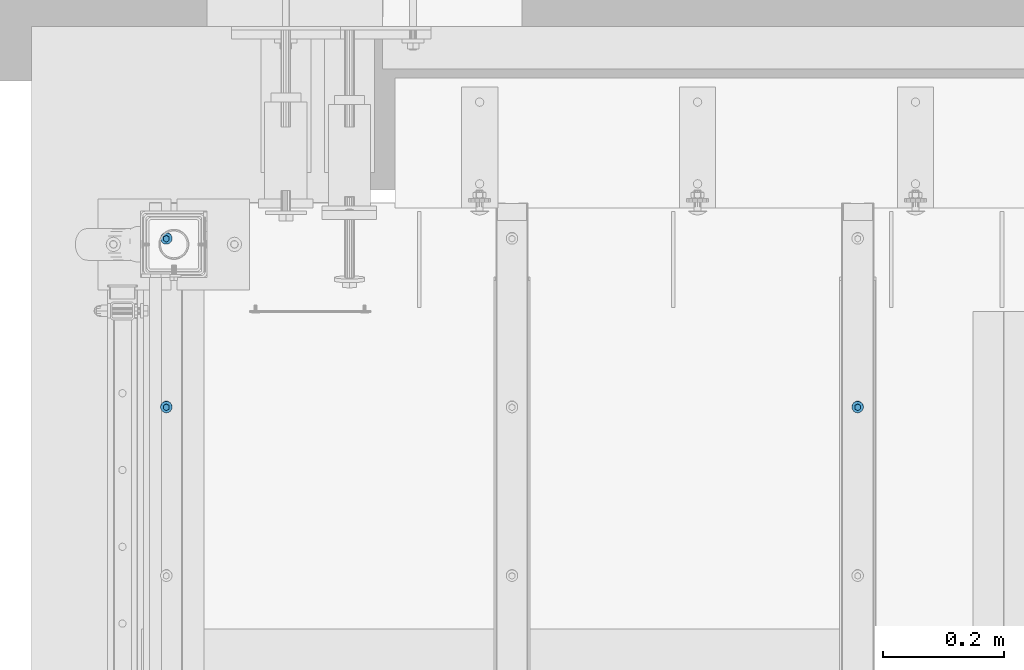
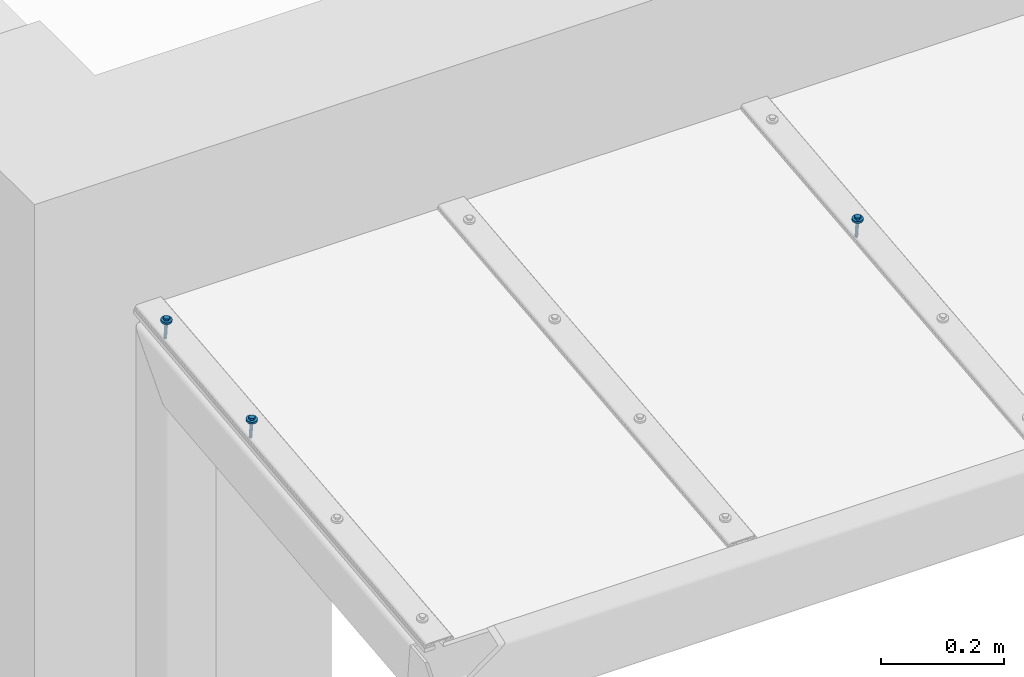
# One storey, part 58 of 116: 3 mechanical fasteners.
"""IFC2X3 building model written with IfcOpenShell, lengths in millimetres."""

from ifc_helpers import new_model, entity, si_unit, converted_unit, origin_with_axes, place, context, project, spatial, faceted_brep, element, save


model = new_model("IFC2X3")

# Units and contexts
model_context = context("Model", 3, precision=1e-09, world=origin_with_axes())
ifc_project = project(units=[si_unit("LENGTHUNIT", "METRE", prefix="MILLI"), si_unit("AREAUNIT", "SQUARE_METRE"), si_unit("VOLUMEUNIT", "CUBIC_METRE"), converted_unit("PLANEANGLEUNIT", "DEGREE", entity("IfcPlaneAngleMeasure", 0.01745329), si_unit("PLANEANGLEUNIT", "RADIAN"), dimensions=[0, 0, 0, 0, 0, 0, 0])], contexts=[model_context])

# Site, building, storey
site_placement = place(None, origin_with_axes())
site = spatial("IfcSite", under=ifc_project, at=site_placement, Name="Site", CompositionType="ELEMENT")
building_placement = place(site_placement, origin_with_axes())
building = spatial("IfcBuilding", under=site, at=building_placement, Name="Struktur 1", CompositionType="ELEMENT")
storey_placement = place(building_placement, origin_with_axes())
storey = spatial("IfcBuildingStorey", under=building, at=storey_placement, Name="Default Storey", CompositionType="ELEMENT", Elevation=0.0)

# Mechanical fasteners
mechanical_fastener_1_placement = place(None, origin_with_axes())
element("IfcMechanicalFastener", 1, at=mechanical_fastener_1_placement, inside=storey, ObjectType="-", NominalDiameter=6.0, NominalLength=40.0, context=model_context, shape_type="Brep", body=[
    faceted_brep([(56457.049134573, 11693.55204333, 2585.640381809), (56457.049134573, 11693.970157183, 2581.662294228), (56457.231674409, 11692.126952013, 2581.468565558), (56457.231674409, 11691.70883816, 2585.446653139), (56457.772279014, 11690.354580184, 2581.282281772), (56457.772279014, 11689.936466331, 2585.260369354), (56458.650173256, 11688.721152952, 2581.110601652), (56458.650173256, 11688.303039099, 2585.088689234), (56459.831620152, 11687.289442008, 2580.960122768), (56459.831620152, 11686.871328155, 2584.93821035), (56461.27121736, 11686.114467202, 2580.83662794), (56461.27121736, 11685.696353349, 2584.814715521), (56462.913641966, 11685.241382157, 2580.744863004), (56462.913641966, 11684.823268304, 2584.722950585), (56464.695776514, 11684.703739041, 2580.688354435), (56464.695776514, 11684.285625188, 2584.666442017), (56466.549134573, 11684.522199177, 2580.669273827), (56466.549134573, 11684.104085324, 2584.647361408), (56468.402492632, 11684.703739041, 2580.688354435), (56468.402492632, 11684.285625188, 2584.666442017), (56470.184627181, 11685.241382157, 2580.744863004), (56470.184627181, 11684.823268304, 2584.722950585), (56471.827051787, 11686.114467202, 2580.83662794), (56471.827051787, 11685.696353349, 2584.814715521), (56473.266648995, 11687.289442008, 2580.960122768), (56473.266648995, 11686.871328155, 2584.93821035), (56474.44809589, 11688.721152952, 2581.110601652), (56474.44809589, 11688.303039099, 2585.088689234), (56475.325990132, 11690.354580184, 2581.282281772), (56475.325990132, 11689.936466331, 2585.260369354), (56475.866594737, 11692.126952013, 2581.468565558), (56475.866594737, 11691.70883816, 2585.446653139), (56476.049134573, 11693.970157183, 2581.662294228), (56476.049134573, 11693.55204333, 2585.640381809), (56475.866594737, 11695.813362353, 2581.856022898), (56475.866594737, 11695.395248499, 2585.834110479), (56475.325990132, 11697.585734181, 2582.042306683), (56475.325990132, 11697.167620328, 2586.020394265), (56474.44809589, 11699.219161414, 2582.213986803), (56474.44809589, 11698.801047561, 2586.192074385), (56473.266648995, 11700.650872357, 2582.364465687), (56473.266648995, 11700.232758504, 2586.342553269), (56471.827051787, 11701.825847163, 2582.487960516), (56471.827051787, 11701.40773331, 2586.466048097), (56470.184627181, 11702.698932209, 2582.579725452), (56470.184627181, 11702.280818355, 2586.557813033), (56468.402492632, 11703.236575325, 2582.63623402), (56468.402492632, 11702.818461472, 2586.614321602), (56466.549134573, 11703.418115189, 2582.655314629), (56466.549134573, 11703.000001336, 2586.63340221), (56464.695776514, 11703.236575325, 2582.63623402), (56464.695776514, 11702.818461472, 2586.614321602), (56462.913641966, 11702.698932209, 2582.579725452), (56462.913641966, 11702.280818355, 2586.557813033), (56461.27121736, 11701.825847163, 2582.487960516), (56461.27121736, 11701.40773331, 2586.466048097), (56459.831620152, 11700.650872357, 2582.364465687), (56459.831620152, 11700.232758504, 2586.342553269), (56458.650173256, 11699.219161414, 2582.213986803), (56458.650173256, 11698.801047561, 2586.192074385), (56457.772279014, 11697.585734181, 2582.042306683), (56457.772279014, 11697.167620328, 2586.020394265), (56457.231674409, 11695.813362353, 2581.856022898), (56457.231674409, 11695.395248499, 2585.834110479)], [[[0, 1, 2, 3]], [[3, 2, 4, 5]], [[5, 4, 6, 7]], [[7, 6, 8, 9]], [[9, 8, 10, 11]], [[11, 10, 12, 13]], [[13, 12, 14, 15]], [[15, 14, 16, 17]], [[17, 16, 18, 19]], [[19, 18, 20, 21]], [[21, 20, 22, 23]], [[23, 22, 24, 25]], [[25, 24, 26, 27]], [[27, 26, 28, 29]], [[29, 28, 30, 31]], [[31, 30, 32, 33]], [[33, 32, 34, 35]], [[35, 34, 36, 37]], [[37, 36, 38, 39]], [[39, 38, 40, 41]], [[41, 40, 42, 43]], [[43, 42, 44, 45]], [[45, 44, 46, 47]], [[47, 46, 48, 49]], [[49, 48, 50, 51]], [[51, 50, 52, 53]], [[53, 52, 54, 55]], [[55, 54, 56, 57]], [[57, 56, 58, 59]], [[59, 58, 60, 61]], [[61, 60, 62, 63]], [[63, 62, 1, 0]], [[0, 3, 5, 7, 9, 11, 13, 15, 17, 19, 21, 23, 25, 27, 29, 31, 33, 35, 37, 39, 41, 43, 45, 47, 49, 51, 53, 55, 57, 59, 61, 63]], [[1, 62, 60, 58, 56, 54, 52, 50, 48, 46, 44, 42, 40, 38, 36, 34, 32, 30, 28, 26, 24, 22, 20, 18, 16, 14, 12, 10, 8, 6, 4, 2]]]),
    faceted_brep([(56471.333924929, 11690.804676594, 2585.351621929), (56471.333924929, 11690.386562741, 2589.329709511), (56466.549134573, 11687.639196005, 2589.040949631), (56466.549134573, 11688.057309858, 2585.06286205), (56461.764344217, 11690.386562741, 2589.329709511), (56461.764344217, 11690.804676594, 2585.351621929), (56461.764344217, 11695.881296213, 2589.90722927), (56461.764344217, 11696.299410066, 2585.929141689), (56466.549134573, 11698.628662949, 2590.19598915), (56466.549134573, 11699.046776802, 2586.217901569), (56471.333924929, 11695.881296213, 2589.90722927), (56471.333924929, 11696.299410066, 2585.929141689)], [[[0, 1, 2, 3]], [[3, 2, 4, 5]], [[5, 4, 6, 7]], [[7, 6, 8, 9]], [[9, 8, 10, 11]], [[11, 10, 1, 0]], [[4, 2, 1, 10, 8, 6]], [[0, 3, 5, 7, 9, 11]]]),
    faceted_brep([(56463.549134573, 11693.970157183, 2581.662294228), (56463.549134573, 11697.315068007, 2549.837593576), (56463.777495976, 11696.17330685, 2549.717589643), (56463.777495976, 11692.828396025, 2581.542290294), (56464.42781423, 11695.205368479, 2549.61585522), (56464.42781423, 11691.860457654, 2581.440555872), (56465.401084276, 11694.558612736, 2549.547878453), (56465.401084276, 11691.213701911, 2581.372579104), (56466.549134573, 11694.331502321, 2549.524008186), (56466.549134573, 11690.986591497, 2581.348708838), (56467.69718487, 11694.558612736, 2549.547878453), (56467.69718487, 11691.213701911, 2581.372579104), (56468.670454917, 11695.205368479, 2549.61585522), (56468.670454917, 11691.860457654, 2581.440555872), (56469.320773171, 11696.17330685, 2549.717589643), (56469.320773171, 11692.828396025, 2581.542290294), (56469.549134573, 11697.315068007, 2549.837593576), (56469.549134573, 11693.970157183, 2581.662294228), (56469.320773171, 11698.456829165, 2549.957597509), (56469.320773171, 11695.11191834, 2581.782298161), (56468.670454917, 11699.424767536, 2550.059331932), (56468.670454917, 11696.079856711, 2581.884032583), (56467.69718487, 11700.071523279, 2550.127308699), (56467.69718487, 11696.726612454, 2581.952009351), (56466.549134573, 11700.298633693, 2550.151178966), (56466.549134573, 11696.953722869, 2581.975879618), (56465.401084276, 11700.071523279, 2550.127308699), (56465.401084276, 11696.726612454, 2581.952009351), (56464.42781423, 11699.424767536, 2550.059331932), (56464.42781423, 11696.079856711, 2581.884032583), (56463.777495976, 11698.456829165, 2549.957597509), (56463.777495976, 11695.11191834, 2581.782298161)], [[[0, 1, 2, 3]], [[3, 2, 4, 5]], [[5, 4, 6, 7]], [[7, 6, 8, 9]], [[9, 8, 10, 11]], [[11, 10, 12, 13]], [[13, 12, 14, 15]], [[15, 14, 16, 17]], [[17, 16, 18, 19]], [[19, 18, 20, 21]], [[21, 20, 22, 23]], [[23, 22, 24, 25]], [[25, 24, 26, 27]], [[27, 26, 28, 29]], [[29, 28, 30, 31]], [[31, 30, 1, 0]], [[0, 3, 5, 7, 9, 11, 13, 15, 17, 19, 21, 23, 25, 27, 29, 31]], [[1, 30, 28, 26, 24, 22, 20, 18, 16, 14, 12, 10, 8, 6, 4, 2]]]),
    faceted_brep([(56463.549134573, 11697.315068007, 2549.837593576), (56463.549134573, 11697.73318186, 2545.859505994), (56463.777495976, 11696.591420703, 2545.739502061), (56463.777495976, 11696.17330685, 2549.717589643), (56464.42781423, 11695.623482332, 2545.637767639), (56464.42781423, 11695.205368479, 2549.61585522), (56465.401084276, 11694.976726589, 2545.569790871), (56465.401084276, 11694.558612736, 2549.547878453), (56466.549134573, 11694.749616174, 2545.545920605), (56466.549134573, 11694.331502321, 2549.524008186), (56467.69718487, 11694.976726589, 2545.569790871), (56467.69718487, 11694.558612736, 2549.547878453), (56468.670454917, 11695.623482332, 2545.637767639), (56468.670454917, 11695.205368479, 2549.61585522), (56469.320773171, 11696.591420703, 2545.739502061), (56469.320773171, 11696.17330685, 2549.717589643), (56469.549134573, 11697.73318186, 2545.859505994), (56469.549134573, 11697.315068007, 2549.837593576), (56469.320773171, 11698.874943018, 2545.979509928), (56469.320773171, 11698.456829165, 2549.957597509), (56468.670454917, 11699.842881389, 2546.08124435), (56468.670454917, 11699.424767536, 2550.059331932), (56467.69718487, 11700.489637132, 2546.149221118), (56467.69718487, 11700.071523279, 2550.127308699), (56466.549134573, 11700.716747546, 2546.173091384), (56466.549134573, 11700.298633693, 2550.151178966), (56465.401084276, 11700.489637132, 2546.149221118), (56465.401084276, 11700.071523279, 2550.127308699), (56464.42781423, 11699.842881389, 2546.08124435), (56464.42781423, 11699.424767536, 2550.059331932), (56463.777495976, 11698.874943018, 2545.979509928), (56463.777495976, 11698.456829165, 2549.957597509)], [[[0, 1, 2, 3]], [[3, 2, 4, 5]], [[5, 4, 6, 7]], [[7, 6, 8, 9]], [[9, 8, 10, 11]], [[11, 10, 12, 13]], [[13, 12, 14, 15]], [[15, 14, 16, 17]], [[17, 16, 18, 19]], [[19, 18, 20, 21]], [[21, 20, 22, 23]], [[23, 22, 24, 25]], [[25, 24, 26, 27]], [[27, 26, 28, 29]], [[29, 28, 30, 31]], [[31, 30, 1, 0]], [[0, 3, 5, 7, 9, 11, 13, 15, 17, 19, 21, 23, 25, 27, 29, 31]], [[1, 30, 28, 26, 24, 22, 20, 18, 16, 14, 12, 10, 8, 6, 4, 2]]]),
])
mechanical_fastener_2_placement = place(None, origin_with_axes())
element("IfcMechanicalFastener", 2, at=mechanical_fastener_2_placement, inside=storey, ObjectType="-", NominalDiameter=6.0, NominalLength=40.0, context=model_context, shape_type="Brep", body=[
    faceted_brep([(55334.04913457, 11693.970157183, 2581.662294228), (55334.04913457, 11693.55204333, 2585.640381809), (55333.866594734, 11691.70883816, 2585.446653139), (55333.866594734, 11692.126952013, 2581.468565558), (55333.325990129, 11689.936466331, 2585.260369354), (55333.325990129, 11690.354580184, 2581.282281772), (55332.448095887, 11688.303039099, 2585.088689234), (55332.448095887, 11688.721152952, 2581.110601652), (55331.266648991, 11686.871328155, 2584.93821035), (55331.266648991, 11687.289442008, 2580.960122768), (55329.827051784, 11685.696353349, 2584.814715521), (55329.827051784, 11686.114467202, 2580.83662794), (55328.184627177, 11684.823268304, 2584.722950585), (55328.184627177, 11685.241382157, 2580.744863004), (55326.402492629, 11684.285625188, 2584.666442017), (55326.402492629, 11684.703739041, 2580.688354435), (55324.54913457, 11684.104085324, 2584.647361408), (55324.54913457, 11684.522199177, 2580.669273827), (55322.695776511, 11684.285625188, 2584.666442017), (55322.695776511, 11684.703739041, 2580.688354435), (55320.913641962, 11684.823268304, 2584.722950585), (55320.913641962, 11685.241382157, 2580.744863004), (55319.271217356, 11685.696353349, 2584.814715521), (55319.271217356, 11686.114467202, 2580.83662794), (55317.831620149, 11686.871328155, 2584.93821035), (55317.831620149, 11687.289442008, 2580.960122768), (55316.650173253, 11688.303039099, 2585.088689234), (55316.650173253, 11688.721152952, 2581.110601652), (55315.772279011, 11689.936466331, 2585.260369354), (55315.772279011, 11690.354580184, 2581.282281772), (55315.231674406, 11691.70883816, 2585.446653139), (55315.231674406, 11692.126952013, 2581.468565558), (55315.04913457, 11693.55204333, 2585.640381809), (55315.04913457, 11693.970157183, 2581.662294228), (55315.231674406, 11695.395248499, 2585.834110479), (55315.231674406, 11695.813362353, 2581.856022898), (55315.772279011, 11697.167620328, 2586.020394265), (55315.772279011, 11697.585734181, 2582.042306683), (55316.650173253, 11698.801047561, 2586.192074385), (55316.650173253, 11699.219161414, 2582.213986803), (55317.831620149, 11700.232758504, 2586.342553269), (55317.831620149, 11700.650872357, 2582.364465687), (55319.271217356, 11701.40773331, 2586.466048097), (55319.271217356, 11701.825847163, 2582.487960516), (55320.913641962, 11702.280818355, 2586.557813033), (55320.913641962, 11702.698932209, 2582.579725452), (55322.695776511, 11702.818461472, 2586.614321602), (55322.695776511, 11703.236575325, 2582.63623402), (55324.54913457, 11703.000001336, 2586.63340221), (55324.54913457, 11703.418115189, 2582.655314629), (55326.402492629, 11702.818461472, 2586.614321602), (55326.402492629, 11703.236575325, 2582.63623402), (55328.184627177, 11702.280818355, 2586.557813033), (55328.184627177, 11702.698932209, 2582.579725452), (55329.827051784, 11701.40773331, 2586.466048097), (55329.827051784, 11701.825847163, 2582.487960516), (55331.266648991, 11700.232758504, 2586.342553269), (55331.266648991, 11700.650872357, 2582.364465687), (55332.448095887, 11698.801047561, 2586.192074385), (55332.448095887, 11699.219161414, 2582.213986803), (55333.325990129, 11697.167620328, 2586.020394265), (55333.325990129, 11697.585734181, 2582.042306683), (55333.866594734, 11695.395248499, 2585.834110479), (55333.866594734, 11695.813362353, 2581.856022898)], [[[0, 1, 2, 3]], [[3, 2, 4, 5]], [[5, 4, 6, 7]], [[7, 6, 8, 9]], [[9, 8, 10, 11]], [[11, 10, 12, 13]], [[13, 12, 14, 15]], [[15, 14, 16, 17]], [[17, 16, 18, 19]], [[19, 18, 20, 21]], [[21, 20, 22, 23]], [[23, 22, 24, 25]], [[25, 24, 26, 27]], [[27, 26, 28, 29]], [[29, 28, 30, 31]], [[31, 30, 32, 33]], [[33, 32, 34, 35]], [[35, 34, 36, 37]], [[37, 36, 38, 39]], [[39, 38, 40, 41]], [[41, 40, 42, 43]], [[43, 42, 44, 45]], [[45, 44, 46, 47]], [[47, 46, 48, 49]], [[49, 48, 50, 51]], [[51, 50, 52, 53]], [[53, 52, 54, 55]], [[55, 54, 56, 57]], [[57, 56, 58, 59]], [[59, 58, 60, 61]], [[61, 60, 62, 63]], [[63, 62, 1, 0]], [[2, 1, 62, 60, 58, 56, 54, 52, 50, 48, 46, 44, 42, 40, 38, 36, 34, 32, 30, 28, 26, 24, 22, 20, 18, 16, 14, 12, 10, 8, 6, 4]], [[63, 0, 3, 5, 7, 9, 11, 13, 15, 17, 19, 21, 23, 25, 27, 29, 31, 33, 35, 37, 39, 41, 43, 45, 47, 49, 51, 53, 55, 57, 59, 61]]]),
    faceted_brep([(55319.764344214, 11690.386562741, 2589.329709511), (55319.764344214, 11690.804676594, 2585.351621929), (55324.54913457, 11688.057309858, 2585.06286205), (55324.54913457, 11687.639196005, 2589.040949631), (55329.333924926, 11690.804676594, 2585.351621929), (55329.333924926, 11690.386562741, 2589.329709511), (55329.333924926, 11696.299410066, 2585.929141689), (55329.333924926, 11695.881296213, 2589.90722927), (55324.54913457, 11699.046776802, 2586.217901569), (55324.54913457, 11698.628662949, 2590.19598915), (55319.764344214, 11696.299410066, 2585.929141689), (55319.764344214, 11695.881296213, 2589.90722927)], [[[0, 1, 2, 3]], [[3, 2, 4, 5]], [[5, 4, 6, 7]], [[7, 6, 8, 9]], [[9, 8, 10, 11]], [[11, 10, 1, 0]], [[3, 5, 7, 9, 11, 0]], [[2, 1, 10, 8, 6, 4]]]),
    faceted_brep([(55327.54913457, 11697.315068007, 2549.837593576), (55327.54913457, 11693.970157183, 2581.662294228), (55327.320773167, 11692.828396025, 2581.542290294), (55327.320773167, 11696.17330685, 2549.717589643), (55326.670454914, 11691.860457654, 2581.440555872), (55326.670454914, 11695.205368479, 2549.61585522), (55325.697184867, 11691.213701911, 2581.372579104), (55325.697184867, 11694.558612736, 2549.547878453), (55324.54913457, 11690.986591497, 2581.348708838), (55324.54913457, 11694.331502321, 2549.524008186), (55323.401084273, 11691.213701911, 2581.372579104), (55323.401084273, 11694.558612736, 2549.547878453), (55322.427814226, 11691.860457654, 2581.440555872), (55322.427814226, 11695.205368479, 2549.61585522), (55321.777495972, 11692.828396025, 2581.542290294), (55321.777495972, 11696.17330685, 2549.717589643), (55321.54913457, 11693.970157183, 2581.662294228), (55321.54913457, 11697.315068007, 2549.837593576), (55321.777495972, 11695.11191834, 2581.782298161), (55321.777495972, 11698.456829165, 2549.957597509), (55322.427814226, 11696.079856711, 2581.884032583), (55322.427814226, 11699.424767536, 2550.059331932), (55323.401084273, 11696.726612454, 2581.952009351), (55323.401084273, 11700.071523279, 2550.127308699), (55324.54913457, 11696.953722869, 2581.975879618), (55324.54913457, 11700.298633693, 2550.151178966), (55325.697184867, 11696.726612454, 2581.952009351), (55325.697184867, 11700.071523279, 2550.127308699), (55326.670454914, 11696.079856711, 2581.884032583), (55326.670454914, 11699.424767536, 2550.059331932), (55327.320773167, 11695.11191834, 2581.782298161), (55327.320773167, 11698.456829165, 2549.957597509)], [[[0, 1, 2, 3]], [[3, 2, 4, 5]], [[5, 4, 6, 7]], [[7, 6, 8, 9]], [[9, 8, 10, 11]], [[11, 10, 12, 13]], [[13, 12, 14, 15]], [[15, 14, 16, 17]], [[17, 16, 18, 19]], [[19, 18, 20, 21]], [[21, 20, 22, 23]], [[23, 22, 24, 25]], [[25, 24, 26, 27]], [[27, 26, 28, 29]], [[29, 28, 30, 31]], [[31, 30, 1, 0]], [[2, 1, 30, 28, 26, 24, 22, 20, 18, 16, 14, 12, 10, 8, 6, 4]], [[31, 0, 3, 5, 7, 9, 11, 13, 15, 17, 19, 21, 23, 25, 27, 29]]]),
    faceted_brep([(55327.54913457, 11697.73318186, 2545.859505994), (55327.54913457, 11697.315068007, 2549.837593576), (55327.320773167, 11696.17330685, 2549.717589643), (55327.320773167, 11696.591420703, 2545.739502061), (55326.670454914, 11695.205368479, 2549.61585522), (55326.670454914, 11695.623482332, 2545.637767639), (55325.697184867, 11694.558612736, 2549.547878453), (55325.697184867, 11694.976726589, 2545.569790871), (55324.54913457, 11694.331502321, 2549.524008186), (55324.54913457, 11694.749616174, 2545.545920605), (55323.401084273, 11694.558612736, 2549.547878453), (55323.401084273, 11694.976726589, 2545.569790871), (55322.427814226, 11695.205368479, 2549.61585522), (55322.427814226, 11695.623482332, 2545.637767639), (55321.777495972, 11696.17330685, 2549.717589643), (55321.777495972, 11696.591420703, 2545.739502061), (55321.54913457, 11697.315068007, 2549.837593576), (55321.54913457, 11697.73318186, 2545.859505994), (55321.777495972, 11698.456829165, 2549.957597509), (55321.777495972, 11698.874943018, 2545.979509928), (55322.427814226, 11699.424767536, 2550.059331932), (55322.427814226, 11699.842881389, 2546.08124435), (55323.401084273, 11700.071523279, 2550.127308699), (55323.401084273, 11700.489637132, 2546.149221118), (55324.54913457, 11700.298633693, 2550.151178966), (55324.54913457, 11700.716747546, 2546.173091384), (55325.697184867, 11700.071523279, 2550.127308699), (55325.697184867, 11700.489637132, 2546.149221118), (55326.670454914, 11699.424767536, 2550.059331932), (55326.670454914, 11699.842881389, 2546.08124435), (55327.320773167, 11698.456829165, 2549.957597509), (55327.320773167, 11698.874943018, 2545.979509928)], [[[0, 1, 2, 3]], [[3, 2, 4, 5]], [[5, 4, 6, 7]], [[7, 6, 8, 9]], [[9, 8, 10, 11]], [[11, 10, 12, 13]], [[13, 12, 14, 15]], [[15, 14, 16, 17]], [[17, 16, 18, 19]], [[19, 18, 20, 21]], [[21, 20, 22, 23]], [[23, 22, 24, 25]], [[25, 24, 26, 27]], [[27, 26, 28, 29]], [[29, 28, 30, 31]], [[31, 30, 1, 0]], [[2, 1, 30, 28, 26, 24, 22, 20, 18, 16, 14, 12, 10, 8, 6, 4]], [[31, 0, 3, 5, 7, 9, 11, 13, 15, 17, 19, 21, 23, 25, 27, 29]]]),
])
mechanical_fastener_3_placement = place(None, origin_with_axes())
element("IfcMechanicalFastener", 3, at=mechanical_fastener_3_placement, inside=storey, ObjectType="-", NominalDiameter=6.0, NominalLength=40.0, context=model_context, shape_type="Brep", body=[
    faceted_brep([(55334.04913457, 11972.436287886, 2610.930263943), (55334.04913457, 11972.018174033, 2614.908351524), (55333.866594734, 11970.174968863, 2614.714622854), (55333.866594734, 11970.593082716, 2610.736535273), (55333.325990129, 11968.402597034, 2614.528339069), (55333.325990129, 11968.820710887, 2610.550251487), (55332.448095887, 11966.769169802, 2614.356658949), (55332.448095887, 11967.187283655, 2610.378571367), (55331.266648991, 11965.337458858, 2614.206180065), (55331.266648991, 11965.755572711, 2610.228092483), (55329.827051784, 11964.162484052, 2614.082685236), (55329.827051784, 11964.580597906, 2610.104597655), (55328.184627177, 11963.289399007, 2613.9909203), (55328.184627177, 11963.70751286, 2610.012832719), (55326.402492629, 11962.751755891, 2613.934411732), (55326.402492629, 11963.169869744, 2609.95632415), (55324.54913457, 11962.570216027, 2613.915331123), (55324.54913457, 11962.98832988, 2609.937243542), (55322.695776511, 11962.751755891, 2613.934411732), (55322.695776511, 11963.169869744, 2609.95632415), (55320.913641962, 11963.289399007, 2613.9909203), (55320.913641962, 11963.70751286, 2610.012832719), (55319.271217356, 11964.162484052, 2614.082685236), (55319.271217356, 11964.580597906, 2610.104597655), (55317.831620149, 11965.337458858, 2614.206180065), (55317.831620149, 11965.755572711, 2610.228092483), (55316.650173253, 11966.769169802, 2614.356658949), (55316.650173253, 11967.187283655, 2610.378571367), (55315.772279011, 11968.402597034, 2614.528339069), (55315.772279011, 11968.820710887, 2610.550251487), (55315.231674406, 11970.174968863, 2614.714622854), (55315.231674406, 11970.593082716, 2610.736535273), (55315.04913457, 11972.018174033, 2614.908351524), (55315.04913457, 11972.436287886, 2610.930263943), (55315.231674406, 11973.861379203, 2615.102080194), (55315.231674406, 11974.279493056, 2611.123992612), (55315.772279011, 11975.633751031, 2615.28836398), (55315.772279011, 11976.051864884, 2611.310276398), (55316.650173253, 11977.267178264, 2615.4600441), (55316.650173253, 11977.685292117, 2611.481956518), (55317.831620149, 11978.698889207, 2615.610522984), (55317.831620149, 11979.11700306, 2611.632435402), (55319.271217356, 11979.873864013, 2615.734017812), (55319.271217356, 11980.291977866, 2611.755930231), (55320.913641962, 11980.746949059, 2615.825782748), (55320.913641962, 11981.165062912, 2611.847695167), (55322.695776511, 11981.284592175, 2615.882291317), (55322.695776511, 11981.702706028, 2611.904203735), (55324.54913457, 11981.466132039, 2615.901371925), (55324.54913457, 11981.884245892, 2611.923284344), (55326.402492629, 11981.284592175, 2615.882291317), (55326.402492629, 11981.702706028, 2611.904203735), (55328.184627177, 11980.746949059, 2615.825782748), (55328.184627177, 11981.165062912, 2611.847695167), (55329.827051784, 11979.873864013, 2615.734017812), (55329.827051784, 11980.291977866, 2611.755930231), (55331.266648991, 11978.698889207, 2615.610522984), (55331.266648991, 11979.11700306, 2611.632435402), (55332.448095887, 11977.267178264, 2615.4600441), (55332.448095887, 11977.685292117, 2611.481956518), (55333.325990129, 11975.633751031, 2615.28836398), (55333.325990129, 11976.051864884, 2611.310276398), (55333.866594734, 11973.861379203, 2615.102080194), (55333.866594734, 11974.279493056, 2611.123992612)], [[[0, 1, 2, 3]], [[3, 2, 4, 5]], [[5, 4, 6, 7]], [[7, 6, 8, 9]], [[9, 8, 10, 11]], [[11, 10, 12, 13]], [[13, 12, 14, 15]], [[15, 14, 16, 17]], [[17, 16, 18, 19]], [[19, 18, 20, 21]], [[21, 20, 22, 23]], [[23, 22, 24, 25]], [[25, 24, 26, 27]], [[27, 26, 28, 29]], [[29, 28, 30, 31]], [[31, 30, 32, 33]], [[33, 32, 34, 35]], [[35, 34, 36, 37]], [[37, 36, 38, 39]], [[39, 38, 40, 41]], [[41, 40, 42, 43]], [[43, 42, 44, 45]], [[45, 44, 46, 47]], [[47, 46, 48, 49]], [[49, 48, 50, 51]], [[51, 50, 52, 53]], [[53, 52, 54, 55]], [[55, 54, 56, 57]], [[57, 56, 58, 59]], [[59, 58, 60, 61]], [[61, 60, 62, 63]], [[63, 62, 1, 0]], [[2, 1, 62, 60, 58, 56, 54, 52, 50, 48, 46, 44, 42, 40, 38, 36, 34, 32, 30, 28, 26, 24, 22, 20, 18, 16, 14, 12, 10, 8, 6, 4]], [[63, 0, 3, 5, 7, 9, 11, 13, 15, 17, 19, 21, 23, 25, 27, 29, 31, 33, 35, 37, 39, 41, 43, 45, 47, 49, 51, 53, 55, 57, 59, 61]]]),
    faceted_brep([(55319.764344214, 11968.852693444, 2618.597679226), (55319.764344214, 11969.270807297, 2614.619591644), (55324.54913457, 11966.523440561, 2614.330831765), (55324.54913457, 11966.105326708, 2618.308919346), (55329.333924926, 11969.270807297, 2614.619591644), (55329.333924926, 11968.852693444, 2618.597679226), (55329.333924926, 11974.765540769, 2615.197111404), (55329.333924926, 11974.347426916, 2619.175198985), (55324.54913457, 11977.512907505, 2615.485871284), (55324.54913457, 11977.094793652, 2619.463958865), (55319.764344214, 11974.765540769, 2615.197111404), (55319.764344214, 11974.347426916, 2619.175198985)], [[[0, 1, 2, 3]], [[3, 2, 4, 5]], [[5, 4, 6, 7]], [[7, 6, 8, 9]], [[9, 8, 10, 11]], [[11, 10, 1, 0]], [[3, 5, 7, 9, 11, 0]], [[2, 1, 10, 8, 6, 4]]]),
    faceted_brep([(55327.54913457, 11975.78119871, 2579.105563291), (55327.54913457, 11972.436287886, 2610.930263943), (55327.320773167, 11971.294526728, 2610.810260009), (55327.320773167, 11974.639437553, 2578.985559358), (55326.670454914, 11970.326588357, 2610.708525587), (55326.670454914, 11973.671499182, 2578.883824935), (55325.697184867, 11969.679832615, 2610.640548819), (55325.697184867, 11973.024743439, 2578.815848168), (55324.54913457, 11969.4527222, 2610.616678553), (55324.54913457, 11972.797633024, 2578.791977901), (55323.401084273, 11969.679832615, 2610.640548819), (55323.401084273, 11973.024743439, 2578.815848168), (55322.427814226, 11970.326588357, 2610.708525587), (55322.427814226, 11973.671499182, 2578.883824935), (55321.777495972, 11971.294526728, 2610.810260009), (55321.777495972, 11974.639437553, 2578.985559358), (55321.54913457, 11972.436287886, 2610.930263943), (55321.54913457, 11975.78119871, 2579.105563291), (55321.777495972, 11973.578049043, 2611.050267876), (55321.777495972, 11976.922959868, 2579.225567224), (55322.427814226, 11974.545987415, 2611.152002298), (55322.427814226, 11977.890898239, 2579.327301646), (55323.401084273, 11975.192743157, 2611.219979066), (55323.401084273, 11978.537653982, 2579.395278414), (55324.54913457, 11975.419853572, 2611.243849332), (55324.54913457, 11978.764764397, 2579.419148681), (55325.697184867, 11975.192743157, 2611.219979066), (55325.697184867, 11978.537653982, 2579.395278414), (55326.670454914, 11974.545987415, 2611.152002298), (55326.670454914, 11977.890898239, 2579.327301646), (55327.320773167, 11973.578049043, 2611.050267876), (55327.320773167, 11976.922959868, 2579.225567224)], [[[0, 1, 2, 3]], [[3, 2, 4, 5]], [[5, 4, 6, 7]], [[7, 6, 8, 9]], [[9, 8, 10, 11]], [[11, 10, 12, 13]], [[13, 12, 14, 15]], [[15, 14, 16, 17]], [[17, 16, 18, 19]], [[19, 18, 20, 21]], [[21, 20, 22, 23]], [[23, 22, 24, 25]], [[25, 24, 26, 27]], [[27, 26, 28, 29]], [[29, 28, 30, 31]], [[31, 30, 1, 0]], [[2, 1, 30, 28, 26, 24, 22, 20, 18, 16, 14, 12, 10, 8, 6, 4]], [[31, 0, 3, 5, 7, 9, 11, 13, 15, 17, 19, 21, 23, 25, 27, 29]]]),
    faceted_brep([(55327.54913457, 11976.199312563, 2575.127475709), (55327.54913457, 11975.78119871, 2579.105563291), (55327.320773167, 11974.639437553, 2578.985559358), (55327.320773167, 11975.057551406, 2575.007471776), (55326.670454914, 11973.671499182, 2578.883824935), (55326.670454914, 11974.089613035, 2574.905737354), (55325.697184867, 11973.024743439, 2578.815848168), (55325.697184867, 11973.442857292, 2574.837760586), (55324.54913457, 11972.797633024, 2578.791977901), (55324.54913457, 11973.215746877, 2574.81389032), (55323.401084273, 11973.024743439, 2578.815848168), (55323.401084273, 11973.442857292, 2574.837760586), (55322.427814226, 11973.671499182, 2578.883824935), (55322.427814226, 11974.089613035, 2574.905737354), (55321.777495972, 11974.639437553, 2578.985559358), (55321.777495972, 11975.057551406, 2575.007471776), (55321.54913457, 11975.78119871, 2579.105563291), (55321.54913457, 11976.199312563, 2575.127475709), (55321.777495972, 11976.922959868, 2579.225567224), (55321.777495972, 11977.341073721, 2575.247479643), (55322.427814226, 11977.890898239, 2579.327301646), (55322.427814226, 11978.309012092, 2575.349214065), (55323.401084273, 11978.537653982, 2579.395278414), (55323.401084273, 11978.955767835, 2575.417190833), (55324.54913457, 11978.764764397, 2579.419148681), (55324.54913457, 11979.18287825, 2575.441061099), (55325.697184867, 11978.537653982, 2579.395278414), (55325.697184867, 11978.955767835, 2575.417190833), (55326.670454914, 11977.890898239, 2579.327301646), (55326.670454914, 11978.309012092, 2575.349214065), (55327.320773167, 11976.922959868, 2579.225567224), (55327.320773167, 11977.341073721, 2575.247479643)], [[[0, 1, 2, 3]], [[3, 2, 4, 5]], [[5, 4, 6, 7]], [[7, 6, 8, 9]], [[9, 8, 10, 11]], [[11, 10, 12, 13]], [[13, 12, 14, 15]], [[15, 14, 16, 17]], [[17, 16, 18, 19]], [[19, 18, 20, 21]], [[21, 20, 22, 23]], [[23, 22, 24, 25]], [[25, 24, 26, 27]], [[27, 26, 28, 29]], [[29, 28, 30, 31]], [[31, 30, 1, 0]], [[2, 1, 30, 28, 26, 24, 22, 20, 18, 16, 14, 12, 10, 8, 6, 4]], [[31, 0, 3, 5, 7, 9, 11, 13, 15, 17, 19, 21, 23, 25, 27, 29]]]),
])

save(model, "model.ifc")
